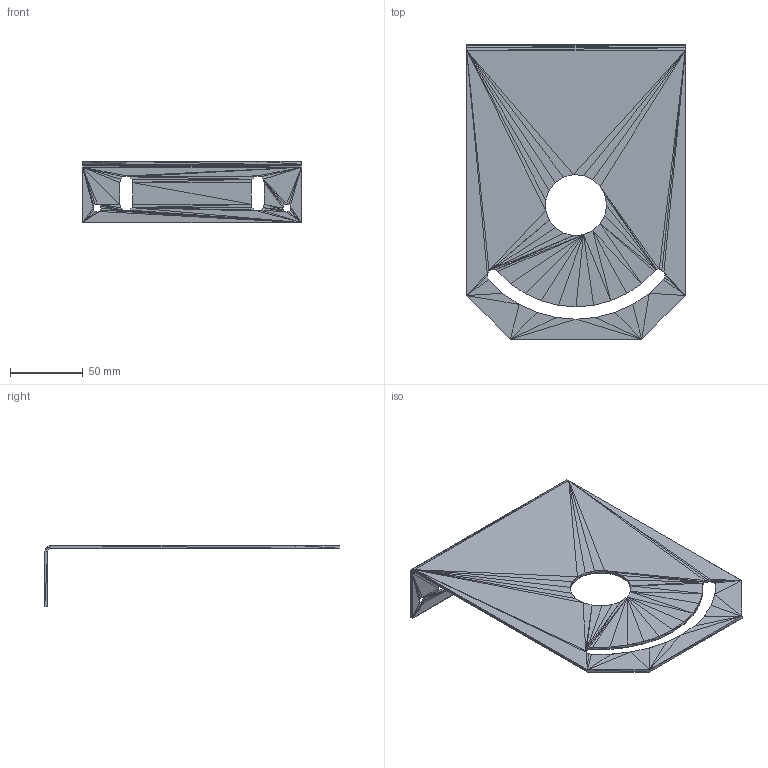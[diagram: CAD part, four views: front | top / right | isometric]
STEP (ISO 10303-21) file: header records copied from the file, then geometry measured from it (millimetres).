
FILE_DESCRIPTION((''),'2;1');
FILE_NAME('004317', '2025-07-23T06:26:48', (''), (''), 'ImageToStl.com STEP Converter','', '');
FILE_SCHEMA(('AUTOMOTIVE_DESIGN_CC2'));
Length unit declared in the file: metre
Products named in the file (1): product0
Bounding box: 150 x 202 x 42 mm (x, y, z)
Surface area: 67139.2 mm2 (no closed solid volume)
Topology: 0 solids, 492 shells, 492 faces, 1476 edges, 236 vertices
Faces by surface type: plane 492
Entity records: 11324 total; most frequent: DIRECTION 2462, ORIENTED_EDGE 1476, EDGE_CURVE 1476, LINE 1476, VECTOR 1476, AXIS2_PLACEMENT_3D 493, FACE_SURFACE 492, PLANE 492
